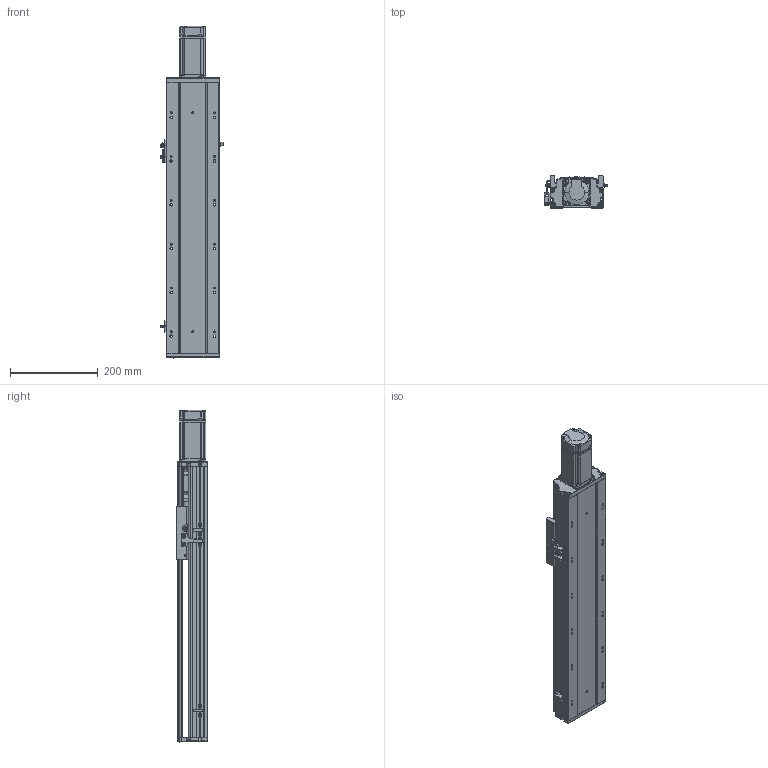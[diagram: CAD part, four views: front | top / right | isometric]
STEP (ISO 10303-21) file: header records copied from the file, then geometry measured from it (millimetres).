
FILE_DESCRIPTION (( 'STEP AP203' ), '1' );
FILE_NAME ('RYK120-L1610-S350-M40-C3-MK.STEP', '2026-03-09T07:45:50', ( '' ), ( '' ), 'SwSTEP 2.0', 'SolidWorks 2016', '' );
FILE_SCHEMA (( 'CONFIG_CONTROL_DESIGN' ));
Length unit declared in the file: millimetre
Products named in the file (17): 15; RYK120-300-MK-奻裔啣-啞_350; 覜茼ん672; 滅袉蝶18-10; 滅袉蝶18-24; 侂狟400W侜督萇儂; RY120QGB-1.8; CB╱T 3762-1996[锥形润滑油嘴1-ZM10×1]_1-ZM10×1; RY120-16螺母油路-集中注油组合; RY120綴裔啣; RY120电机端支撑座-压铸加工-M5; RY120外置感应片(140共用）; RYK120-L1610-S350-M40-C3-MK; 44-49-12-14; RYK170-薊粣ん芵隴裔啣; 2.10.1.C521-V1.0RY120臏賑輸16蹟譫-啞-JZZY-NRL-L1899; RYK120-300-MK-菁釱-啞_350
Assembly tree (21 placements, depth 3):
  RYK120-L1610-S350-M40-C3-MK
    RYK120-300-MK-菁釱-啞_350
    RYK120-300-MK-奻裔啣-啞_350
    RY120綴裔啣
    滅袉蝶18-24  x2
    滅袉蝶18-10  x2
    覜茼ん672  x3
    RY120外置感应片(140共用）
    RY120QGB-1.8
    RY120-16螺母油路-集中注油组合
      2.10.1.C521-V1.0RY120臏賑輸16蹟譫-啞-JZZY-NRL-L1899
      CB╱T 3762-1996[锥形润滑油嘴1-ZM10×1]_1-ZM10×1  x2
    RY120电机端支撑座-压铸加工-M5
    RYK170-薊粣ん芵隴裔啣
    44-49-12-14
    侂狟400W侜督萇儂
      15
Bounding box: 145.7 x 73 x 758.5 mm (x, y, z)
Volume: 2276906.7 mm3; surface area: 750663.3 mm2
Topology: 23 solids, 23 shells, 2504 faces, 6950 edges, 4457 vertices
Faces by surface type: plane 1191, cylinder 949, cone 237, bspline 127
Entity records: 83308 total; most frequent: CARTESIAN_POINT 23970, ORIENTED_EDGE 12456, DIRECTION 11403, EDGE_CURVE 6228, VERTEX_POINT 4069, AXIS2_PLACEMENT_3D 3894, VECTOR 3615, LINE 3615
